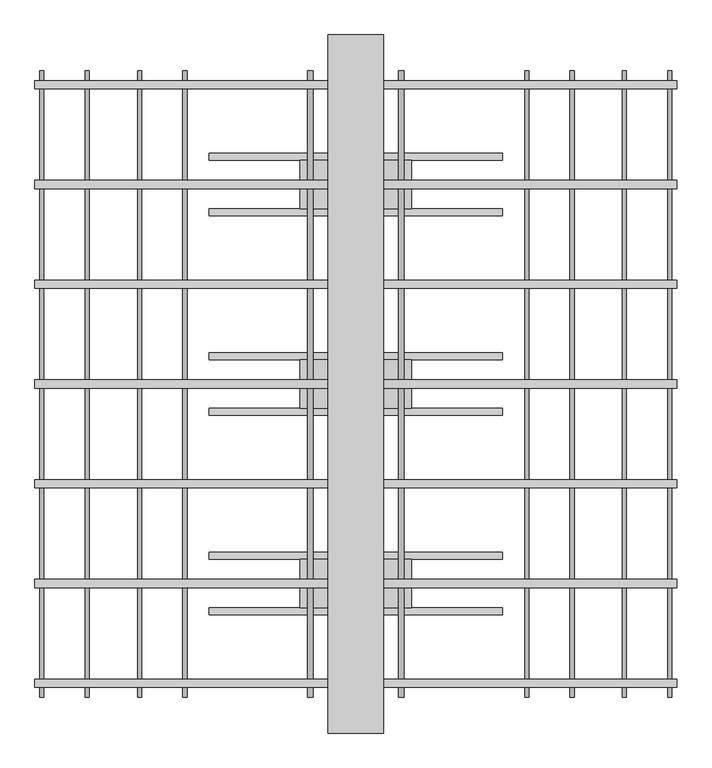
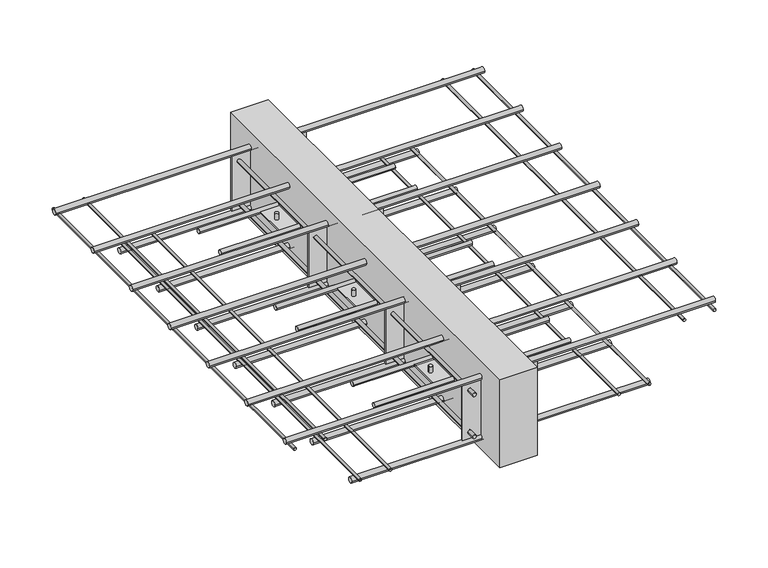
"""IFC4 building model written with IfcOpenShell, lengths in millimetres: fastener geometry, ACINOXplus_Typenreihe_K : KE+ S3."""

from ifc_helpers import new_model, si_unit, point, frame, frame_2d, origin, place, context, project, spatial, polyline, circle_curve, trimmed, segment, composite_curve, outline, extrude, source, transform, mapped, element, save
from ifc_brep_helpers import plane_surface, cylinder_surface, advanced_brep


def fastener_6e46608f(model_context):
    return source(origin(), model_context, "Body", "SolidModel", [
        extrude(outline(composite_curve([segment(trimmed(circle_curve(frame_2d((-40.0, -104.5)), 5.0), [point((-45.0, -104.5))], [point((-35.0, -104.5))], False, "CARTESIAN"), True, "CONTINUOUS"), segment(trimmed(circle_curve(frame_2d((-40.0, -104.5)), 5.0), [point((-35.0, -104.5))], [point((-45.0, -104.5))], False, "CARTESIAN"), True, "CONTINUOUS")], self_intersect=False)), frame((-210.0, 0.0, 0.0), z_axis=(1.0, 0.0, 0.0), x_axis=(0.0, 1.0, 0.0)), (0.0, 0.0, 1.0), 420.0),
        extrude(outline(composite_curve([segment(trimmed(circle_curve(frame_2d((40.0, -104.5)), 5.0), [point((35.0, -104.5))], [point((45.0, -104.5))], False, "CARTESIAN"), True, "CONTINUOUS"), segment(trimmed(circle_curve(frame_2d((40.0, -104.5)), 5.0), [point((45.0, -104.5))], [point((35.0, -104.5))], False, "CARTESIAN"), True, "CONTINUOUS")], self_intersect=False)), frame((-210.0, 0.0, 0.0), z_axis=(1.0, 0.0, 0.0), x_axis=(0.0, 1.0, 0.0)), (0.0, 0.0, 1.0), 420.0),
        advanced_brep(
        [(-69.0, 0.0, -89.5), (-61.0, 0.0, -89.5), (61.0, 0.0, -89.5), (69.0, 0.0, -89.5), (-69.0, 0.0, -119.5), (-61.0, 0.0, -119.5), (61.0, 0.0, -119.5), (69.0, 0.0, -119.5), (-69.0, 0.0, -103.0), (-61.0, 0.0, -103.0), (-61.0, 0.0, -106.0), (-69.0, 0.0, -106.0), (61.0, 0.0, -103.0), (69.0, 0.0, -103.0), (69.0, 0.0, -106.0), (61.0, 0.0, -106.0), (80.0, 35.0, -103.0), (-80.0, 35.0, -103.0), (-80.0, -35.0, -103.0), (80.0, -35.0, -103.0), (80.0, 35.0, -106.0), (80.0, -35.0, -106.0), (-80.0, -35.0, -106.0), (-80.0, 35.0, -106.0)],
        [
            (0, 1, circle_curve(frame((-65.0, 0.0, -89.5), z_axis=(0.0, 0.0, 1.0), x_axis=(1.0, 0.0, 0.0)), 4.0)),
            (1, 0, circle_curve(frame((-65.0, 0.0, -89.5), z_axis=(0.0, 0.0, 1.0), x_axis=(1.0, 0.0, 0.0)), 4.0)),
            (2, 3, circle_curve(frame((65.0, 0.0, -89.5), z_axis=(0.0, 0.0, 1.0), x_axis=(1.0, 0.0, 0.0)), 4.0)),
            (3, 2, circle_curve(frame((65.0, 0.0, -89.5), z_axis=(0.0, 0.0, 1.0), x_axis=(1.0, 0.0, 0.0)), 4.0)),
            (4, 5, circle_curve(frame((-65.0, 0.0, -119.5), z_axis=(0.0, 0.0, -1.0), x_axis=(1.0, 0.0, 0.0)), 4.0)),
            (5, 4, circle_curve(frame((-65.0, 0.0, -119.5), z_axis=(0.0, 0.0, -1.0), x_axis=(1.0, 0.0, 0.0)), 4.0)),
            (6, 7, circle_curve(frame((65.0, 0.0, -119.5), z_axis=(0.0, 0.0, -1.0), x_axis=(1.0, 0.0, 0.0)), 4.0)),
            (7, 6, circle_curve(frame((65.0, 0.0, -119.5), z_axis=(0.0, 0.0, -1.0), x_axis=(1.0, 0.0, 0.0)), 4.0)),
            (0, 8),
            (8, 9, circle_curve(frame((-65.0, 0.0, -103.0), z_axis=(0.0, 0.0, 1.0), x_axis=(1.0, 0.0, 0.0)), 4.0)),
            (9, 1),
            (5, 10),
            (10, 11, circle_curve(frame((-65.0, 0.0, -106.0), z_axis=(0.0, 0.0, -1.0), x_axis=(1.0, 0.0, 0.0)), 4.0)),
            (11, 4),
            (9, 8, circle_curve(frame((-65.0, 0.0, -103.0), z_axis=(0.0, 0.0, 1.0), x_axis=(1.0, 0.0, 0.0)), 4.0)),
            (11, 10, circle_curve(frame((-65.0, 0.0, -106.0), z_axis=(0.0, 0.0, -1.0), x_axis=(1.0, 0.0, 0.0)), 4.0)),
            (2, 12),
            (12, 13, circle_curve(frame((65.0, 0.0, -103.0), z_axis=(0.0, 0.0, 1.0), x_axis=(1.0, 0.0, 0.0)), 4.0)),
            (13, 3),
            (7, 14),
            (14, 15, circle_curve(frame((65.0, 0.0, -106.0), z_axis=(0.0, 0.0, -1.0), x_axis=(1.0, 0.0, 0.0)), 4.0)),
            (15, 6),
            (13, 12, circle_curve(frame((65.0, 0.0, -103.0), z_axis=(0.0, 0.0, 1.0), x_axis=(1.0, 0.0, 0.0)), 4.0)),
            (15, 14, circle_curve(frame((65.0, 0.0, -106.0), z_axis=(0.0, 0.0, -1.0), x_axis=(1.0, 0.0, 0.0)), 4.0)),
            (16, 17),
            (17, 18),
            (18, 19),
            (19, 16),
            (20, 21),
            (21, 22),
            (22, 23),
            (23, 20),
            (16, 20),
            (23, 17),
            (22, 18),
            (21, 19),
        ],
        [
            plane_surface(frame((-61.0, 0.0, -89.5), z_axis=(0.0, 0.0, 1.0), x_axis=(0.0, 1.0, 0.0))),
            plane_surface(frame((-61.0, 0.0, -119.5), z_axis=(0.0, 0.0, -1.0), x_axis=(0.0, -1.0, 0.0))),
            cylinder_surface(frame((-65.0, 0.0, -119.5), z_axis=(0.0, 0.0, 1.0), x_axis=(1.0, 0.0, 0.0)), 4.0),
            cylinder_surface(frame((65.0, 0.0, -104.5), z_axis=(0.0, 0.0, 1.0), x_axis=(1.0, 0.0, 0.0)), 4.0),
            plane_surface(frame((-80.0, 35.0, -103.0), z_axis=(0.0, 0.0, 1.0), x_axis=(-1.0, 0.0, 0.0))),
            plane_surface(frame((-80.0, 35.0, -106.0), z_axis=(0.0, 0.0, -1.0), x_axis=(1.0, 0.0, 0.0))),
            plane_surface(frame((80.0, 35.0, -103.0), z_axis=(0.0, 1.0, 0.0), x_axis=(0.0, 0.0, -1.0))),
            plane_surface(frame((-80.0, 35.0, -103.0), z_axis=(-1.0, 0.0, 0.0), x_axis=(0.0, 0.0, -1.0))),
            plane_surface(frame((-80.0, -35.0, -103.0), z_axis=(0.0, -1.0, 0.0), x_axis=(0.0, 0.0, -1.0))),
            plane_surface(frame((80.0, -35.0, -103.0), z_axis=(1.0, 0.0, 0.0), x_axis=(0.0, 0.0, -1.0))),
        ],
        [
            (0, [[1, 2]]),
            (0, [[3, 4]]),
            (1, [[5, 6]]),
            (1, [[7, 8]]),
            (2, [[-1, 9, 10, 11]]),
            (2, [[-6, 12, 13, 14]]),
            (2, [[-2, -11, 15, -9]]),
            (2, [[-5, -14, 16, -12]]),
            (3, [[-3, 17, 18, 19]]),
            (3, [[-8, 20, 21, 22]]),
            (3, [[-4, -19, 23, -17]]),
            (3, [[-7, -22, 24, -20]]),
            (4, [[25, 26, 27, 28], [-10, -15], [-18, -23]]),
            (5, [[29, 30, 31, 32], [-13, -16], [-21, -24]]),
            (6, [[-25, 33, -32, 34]]),
            (7, [[-26, -34, -31, 35]]),
            (8, [[-27, -35, -30, 36]]),
            (9, [[-28, -36, -29, -33]]),
        ],
    ),
        extrude(outline(composite_curve([segment(trimmed(circle_curve(frame_2d((-325.7142857, -104.5)), 5.0), [point((-330.7142857, -104.5))], [point((-320.7142857, -104.5))], False, "CARTESIAN"), True, "CONTINUOUS"), segment(trimmed(circle_curve(frame_2d((-325.7142857, -104.5)), 5.0), [point((-320.7142857, -104.5))], [point((-330.7142857, -104.5))], False, "CARTESIAN"), True, "CONTINUOUS")], self_intersect=False)), frame((-210.0, 0.0, 0.0), z_axis=(1.0, 0.0, 0.0), x_axis=(0.0, 1.0, 0.0)), (0.0, 0.0, 1.0), 420.0),
        extrude(outline(composite_curve([segment(trimmed(circle_curve(frame_2d((-245.7142857, -104.5)), 5.0), [point((-250.7142857, -104.5))], [point((-240.7142857, -104.5))], False, "CARTESIAN"), True, "CONTINUOUS"), segment(trimmed(circle_curve(frame_2d((-245.7142857, -104.5)), 5.0), [point((-240.7142857, -104.5))], [point((-250.7142857, -104.5))], False, "CARTESIAN"), True, "CONTINUOUS")], self_intersect=False)), frame((-210.0, 0.0, 0.0), z_axis=(1.0, 0.0, 0.0), x_axis=(0.0, 1.0, 0.0)), (0.0, 0.0, 1.0), 420.0),
        advanced_brep(
        [(-69.0, -285.7142857, -89.5), (-61.0, -285.7142857, -89.5), (61.0, -285.7142857, -89.5), (69.0, -285.7142857, -89.5), (-69.0, -285.7142857, -119.5), (-61.0, -285.7142857, -119.5), (61.0, -285.7142857, -119.5), (69.0, -285.7142857, -119.5), (-69.0, -285.7142857, -103.0), (-61.0, -285.7142857, -103.0), (-61.0, -285.7142857, -106.0), (-69.0, -285.7142857, -106.0), (61.0, -285.7142857, -103.0), (69.0, -285.7142857, -103.0), (69.0, -285.7142857, -106.0), (61.0, -285.7142857, -106.0), (80.0, -250.7142857, -103.0), (-80.0, -250.7142857, -103.0), (-80.0, -320.7142857, -103.0), (80.0, -320.7142857, -103.0), (80.0, -250.7142857, -106.0), (80.0, -320.7142857, -106.0), (-80.0, -320.7142857, -106.0), (-80.0, -250.7142857, -106.0)],
        [
            (0, 1, circle_curve(frame((-65.0, -285.7142857, -89.5), z_axis=(0.0, 0.0, 1.0), x_axis=(1.0, 0.0, 0.0)), 4.0)),
            (1, 0, circle_curve(frame((-65.0, -285.7142857, -89.5), z_axis=(0.0, 0.0, 1.0), x_axis=(1.0, 0.0, 0.0)), 4.0)),
            (2, 3, circle_curve(frame((65.0, -285.7142857, -89.5), z_axis=(0.0, 0.0, 1.0), x_axis=(1.0, 0.0, 0.0)), 4.0)),
            (3, 2, circle_curve(frame((65.0, -285.7142857, -89.5), z_axis=(0.0, 0.0, 1.0), x_axis=(1.0, 0.0, 0.0)), 4.0)),
            (4, 5, circle_curve(frame((-65.0, -285.7142857, -119.5), z_axis=(0.0, 0.0, -1.0), x_axis=(1.0, 0.0, 0.0)), 4.0)),
            (5, 4, circle_curve(frame((-65.0, -285.7142857, -119.5), z_axis=(0.0, 0.0, -1.0), x_axis=(1.0, 0.0, 0.0)), 4.0)),
            (6, 7, circle_curve(frame((65.0, -285.7142857, -119.5), z_axis=(0.0, 0.0, -1.0), x_axis=(1.0, 0.0, 0.0)), 4.0)),
            (7, 6, circle_curve(frame((65.0, -285.7142857, -119.5), z_axis=(0.0, 0.0, -1.0), x_axis=(1.0, 0.0, 0.0)), 4.0)),
            (0, 8),
            (8, 9, circle_curve(frame((-65.0, -285.7142857, -103.0), z_axis=(0.0, 0.0, 1.0), x_axis=(1.0, 0.0, 0.0)), 4.0)),
            (9, 1),
            (5, 10),
            (10, 11, circle_curve(frame((-65.0, -285.7142857, -106.0), z_axis=(0.0, 0.0, -1.0), x_axis=(1.0, 0.0, 0.0)), 4.0)),
            (11, 4),
            (9, 8, circle_curve(frame((-65.0, -285.7142857, -103.0), z_axis=(0.0, 0.0, 1.0), x_axis=(1.0, 0.0, 0.0)), 4.0)),
            (11, 10, circle_curve(frame((-65.0, -285.7142857, -106.0), z_axis=(0.0, 0.0, -1.0), x_axis=(1.0, 0.0, 0.0)), 4.0)),
            (2, 12),
            (12, 13, circle_curve(frame((65.0, -285.7142857, -103.0), z_axis=(0.0, 0.0, 1.0), x_axis=(1.0, 0.0, 0.0)), 4.0)),
            (13, 3),
            (7, 14),
            (14, 15, circle_curve(frame((65.0, -285.7142857, -106.0), z_axis=(0.0, 0.0, -1.0), x_axis=(1.0, 0.0, 0.0)), 4.0)),
            (15, 6),
            (13, 12, circle_curve(frame((65.0, -285.7142857, -103.0), z_axis=(0.0, 0.0, 1.0), x_axis=(1.0, 0.0, 0.0)), 4.0)),
            (15, 14, circle_curve(frame((65.0, -285.7142857, -106.0), z_axis=(0.0, 0.0, -1.0), x_axis=(1.0, 0.0, 0.0)), 4.0)),
            (16, 17),
            (17, 18),
            (18, 19),
            (19, 16),
            (20, 21),
            (21, 22),
            (22, 23),
            (23, 20),
            (16, 20),
            (23, 17),
            (22, 18),
            (21, 19),
        ],
        [
            plane_surface(frame((-61.0, -285.7142857, -89.5), z_axis=(0.0, 0.0, 1.0), x_axis=(0.0, 1.0, 0.0))),
            plane_surface(frame((-61.0, -285.7142857, -119.5), z_axis=(0.0, 0.0, -1.0), x_axis=(0.0, -1.0, 0.0))),
            cylinder_surface(frame((-65.0, -285.7142857, -119.5), z_axis=(0.0, 0.0, 1.0), x_axis=(1.0, 0.0, 0.0)), 4.0),
            cylinder_surface(frame((65.0, -285.7142857, -104.5), z_axis=(0.0, 0.0, 1.0), x_axis=(1.0, 0.0, 0.0)), 4.0),
            plane_surface(frame((-80.0, -250.7142857, -103.0), z_axis=(0.0, 0.0, 1.0), x_axis=(-1.0, 0.0, 0.0))),
            plane_surface(frame((-80.0, -250.7142857, -106.0), z_axis=(0.0, 0.0, -1.0), x_axis=(1.0, 0.0, 0.0))),
            plane_surface(frame((80.0, -250.7142857, -103.0), z_axis=(0.0, 1.0, 0.0), x_axis=(0.0, 0.0, -1.0))),
            plane_surface(frame((-80.0, -250.7142857, -103.0), z_axis=(-1.0, 0.0, 0.0), x_axis=(0.0, 0.0, -1.0))),
            plane_surface(frame((-80.0, -320.7142857, -103.0), z_axis=(0.0, -1.0, 0.0), x_axis=(0.0, 0.0, -1.0))),
            plane_surface(frame((80.0, -320.7142857, -103.0), z_axis=(1.0, 0.0, 0.0), x_axis=(0.0, 0.0, -1.0))),
        ],
        [
            (0, [[1, 2]]),
            (0, [[3, 4]]),
            (1, [[5, 6]]),
            (1, [[7, 8]]),
            (2, [[-1, 9, 10, 11]]),
            (2, [[-6, 12, 13, 14]]),
            (2, [[-2, -11, 15, -9]]),
            (2, [[-5, -14, 16, -12]]),
            (3, [[-3, 17, 18, 19]]),
            (3, [[-8, 20, 21, 22]]),
            (3, [[-4, -19, 23, -17]]),
            (3, [[-7, -22, 24, -20]]),
            (4, [[25, 26, 27, 28], [-10, -15], [-18, -23]]),
            (5, [[29, 30, 31, 32], [-13, -16], [-21, -24]]),
            (6, [[-25, 33, -32, 34]]),
            (7, [[-26, -34, -31, 35]]),
            (8, [[-27, -35, -30, 36]]),
            (9, [[-28, -36, -29, -33]]),
        ],
    ),
        extrude(outline(composite_curve([segment(trimmed(circle_curve(frame_2d((245.7142857, -104.5)), 5.0), [point((240.7142857, -104.5))], [point((250.7142857, -104.5))], False, "CARTESIAN"), True, "CONTINUOUS"), segment(trimmed(circle_curve(frame_2d((245.7142857, -104.5)), 5.0), [point((250.7142857, -104.5))], [point((240.7142857, -104.5))], False, "CARTESIAN"), True, "CONTINUOUS")], self_intersect=False)), frame((-210.0, 0.0, 0.0), z_axis=(1.0, 0.0, 0.0), x_axis=(0.0, 1.0, 0.0)), (0.0, 0.0, 1.0), 420.0),
        extrude(outline(composite_curve([segment(trimmed(circle_curve(frame_2d((325.7142857, -104.5)), 5.0), [point((320.7142857, -104.5))], [point((330.7142857, -104.5))], False, "CARTESIAN"), True, "CONTINUOUS"), segment(trimmed(circle_curve(frame_2d((325.7142857, -104.5)), 5.0), [point((330.7142857, -104.5))], [point((320.7142857, -104.5))], False, "CARTESIAN"), True, "CONTINUOUS")], self_intersect=False)), frame((-210.0, 0.0, 0.0), z_axis=(1.0, 0.0, 0.0), x_axis=(0.0, 1.0, 0.0)), (0.0, 0.0, 1.0), 420.0),
        advanced_brep(
        [(-69.0, 285.7142857, -89.5), (-61.0, 285.7142857, -89.5), (61.0, 285.7142857, -89.5), (69.0, 285.7142857, -89.5), (-69.0, 285.7142857, -119.5), (-61.0, 285.7142857, -119.5), (61.0, 285.7142857, -119.5), (69.0, 285.7142857, -119.5), (-69.0, 285.7142857, -103.0), (-61.0, 285.7142857, -103.0), (-61.0, 285.7142857, -106.0), (-69.0, 285.7142857, -106.0), (61.0, 285.7142857, -103.0), (69.0, 285.7142857, -103.0), (69.0, 285.7142857, -106.0), (61.0, 285.7142857, -106.0), (80.0, 320.7142857, -103.0), (-80.0, 320.7142857, -103.0), (-80.0, 250.7142857, -103.0), (80.0, 250.7142857, -103.0), (80.0, 320.7142857, -106.0), (80.0, 250.7142857, -106.0), (-80.0, 250.7142857, -106.0), (-80.0, 320.7142857, -106.0)],
        [
            (0, 1, circle_curve(frame((-65.0, 285.7142857, -89.5), z_axis=(0.0, 0.0, 1.0), x_axis=(1.0, 0.0, 0.0)), 4.0)),
            (1, 0, circle_curve(frame((-65.0, 285.7142857, -89.5), z_axis=(0.0, 0.0, 1.0), x_axis=(1.0, 0.0, 0.0)), 4.0)),
            (2, 3, circle_curve(frame((65.0, 285.7142857, -89.5), z_axis=(0.0, 0.0, 1.0), x_axis=(1.0, 0.0, 0.0)), 4.0)),
            (3, 2, circle_curve(frame((65.0, 285.7142857, -89.5), z_axis=(0.0, 0.0, 1.0), x_axis=(1.0, 0.0, 0.0)), 4.0)),
            (4, 5, circle_curve(frame((-65.0, 285.7142857, -119.5), z_axis=(0.0, 0.0, -1.0), x_axis=(1.0, 0.0, 0.0)), 4.0)),
            (5, 4, circle_curve(frame((-65.0, 285.7142857, -119.5), z_axis=(0.0, 0.0, -1.0), x_axis=(1.0, 0.0, 0.0)), 4.0)),
            (6, 7, circle_curve(frame((65.0, 285.7142857, -119.5), z_axis=(0.0, 0.0, -1.0), x_axis=(1.0, 0.0, 0.0)), 4.0)),
            (7, 6, circle_curve(frame((65.0, 285.7142857, -119.5), z_axis=(0.0, 0.0, -1.0), x_axis=(1.0, 0.0, 0.0)), 4.0)),
            (0, 8),
            (8, 9, circle_curve(frame((-65.0, 285.7142857, -103.0), z_axis=(0.0, 0.0, 1.0), x_axis=(1.0, 0.0, 0.0)), 4.0)),
            (9, 1),
            (5, 10),
            (10, 11, circle_curve(frame((-65.0, 285.7142857, -106.0), z_axis=(0.0, 0.0, -1.0), x_axis=(1.0, 0.0, 0.0)), 4.0)),
            (11, 4),
            (9, 8, circle_curve(frame((-65.0, 285.7142857, -103.0), z_axis=(0.0, 0.0, 1.0), x_axis=(1.0, 0.0, 0.0)), 4.0)),
            (11, 10, circle_curve(frame((-65.0, 285.7142857, -106.0), z_axis=(0.0, 0.0, -1.0), x_axis=(1.0, 0.0, 0.0)), 4.0)),
            (2, 12),
            (12, 13, circle_curve(frame((65.0, 285.7142857, -103.0), z_axis=(0.0, 0.0, 1.0), x_axis=(1.0, 0.0, 0.0)), 4.0)),
            (13, 3),
            (7, 14),
            (14, 15, circle_curve(frame((65.0, 285.7142857, -106.0), z_axis=(0.0, 0.0, -1.0), x_axis=(1.0, 0.0, 0.0)), 4.0)),
            (15, 6),
            (13, 12, circle_curve(frame((65.0, 285.7142857, -103.0), z_axis=(0.0, 0.0, 1.0), x_axis=(1.0, 0.0, 0.0)), 4.0)),
            (15, 14, circle_curve(frame((65.0, 285.7142857, -106.0), z_axis=(0.0, 0.0, -1.0), x_axis=(1.0, 0.0, 0.0)), 4.0)),
            (16, 17),
            (17, 18),
            (18, 19),
            (19, 16),
            (20, 21),
            (21, 22),
            (22, 23),
            (23, 20),
            (16, 20),
            (23, 17),
            (22, 18),
            (21, 19),
        ],
        [
            plane_surface(frame((-61.0, 285.7142857, -89.5), z_axis=(0.0, 0.0, 1.0), x_axis=(0.0, 1.0, 0.0))),
            plane_surface(frame((-61.0, 285.7142857, -119.5), z_axis=(0.0, 0.0, -1.0), x_axis=(0.0, -1.0, 0.0))),
            cylinder_surface(frame((-65.0, 285.7142857, -119.5), z_axis=(0.0, 0.0, 1.0), x_axis=(1.0, 0.0, 0.0)), 4.0),
            cylinder_surface(frame((65.0, 285.7142857, -104.5), z_axis=(0.0, 0.0, 1.0), x_axis=(1.0, 0.0, 0.0)), 4.0),
            plane_surface(frame((-80.0, 320.7142857, -103.0), z_axis=(0.0, 0.0, 1.0), x_axis=(-1.0, 0.0, 0.0))),
            plane_surface(frame((-80.0, 320.7142857, -106.0), z_axis=(0.0, 0.0, -1.0), x_axis=(1.0, 0.0, 0.0))),
            plane_surface(frame((80.0, 320.7142857, -103.0), z_axis=(0.0, 1.0, 0.0), x_axis=(0.0, 0.0, -1.0))),
            plane_surface(frame((-80.0, 320.7142857, -103.0), z_axis=(-1.0, 0.0, 0.0), x_axis=(0.0, 0.0, -1.0))),
            plane_surface(frame((-80.0, 250.7142857, -103.0), z_axis=(0.0, -1.0, 0.0), x_axis=(0.0, 0.0, -1.0))),
            plane_surface(frame((80.0, 250.7142857, -103.0), z_axis=(1.0, 0.0, 0.0), x_axis=(0.0, 0.0, -1.0))),
        ],
        [
            (0, [[1, 2]]),
            (0, [[3, 4]]),
            (1, [[5, 6]]),
            (1, [[7, 8]]),
            (2, [[-1, 9, 10, 11]]),
            (2, [[-6, 12, 13, 14]]),
            (2, [[-2, -11, 15, -9]]),
            (2, [[-5, -14, 16, -12]]),
            (3, [[-3, 17, 18, 19]]),
            (3, [[-8, 20, 21, 22]]),
            (3, [[-4, -19, 23, -17]]),
            (3, [[-7, -22, 24, -20]]),
            (4, [[25, 26, 27, 28], [-10, -15], [-18, -23]]),
            (5, [[29, 30, 31, 32], [-13, -16], [-21, -24]]),
            (6, [[-25, 33, -32, 34]]),
            (7, [[-26, -34, -31, 35]]),
            (8, [[-27, -35, -30, 36]]),
            (9, [[-28, -36, -29, -33]]),
        ],
    ),
        extrude(outline(polyline([(40.0, 500.0), (40.0, -500.0), (-40.0, -500.0), (-40.0, 500.0), (40.0, 500.0)])), frame((0.0, 0.0, -200.0), z_axis=(0.0, 0.0, 1.0), x_axis=(1.0, 0.0, 0.0)), (0.0, 0.0, 1.0), 200.0),
        extrude(outline(polyline([(80.0, -141.3571429), (80.0, -144.3571429), (-80.0, -144.3571429), (-80.0, -141.3571429), (80.0, -141.3571429)])), frame((0.0, 0.0, -167.0), z_axis=(0.0, 0.0, 1.0), x_axis=(1.0, 0.0, 0.0)), (0.0, 0.0, 1.0), 125.0),
        extrude(outline(polyline([(80.0, 144.3571429), (80.0, 141.3571429), (-80.0, 141.3571429), (-80.0, 144.3571429), (80.0, 144.3571429)])), frame((0.0, 0.0, -167.0), z_axis=(0.0, 0.0, 1.0), x_axis=(1.0, 0.0, 0.0)), (0.0, 0.0, 1.0), 125.0),
        extrude(outline(polyline([(80.0, -427.0714286), (80.0, -430.0714286), (-80.0, -430.0714286), (-80.0, -427.0714286), (80.0, -427.0714286)])), frame((0.0, 0.0, -167.0), z_axis=(0.0, 0.0, 1.0), x_axis=(1.0, 0.0, 0.0)), (0.0, 0.0, 1.0), 125.0),
        extrude(outline(polyline([(80.0, 430.0714286), (80.0, 427.0714286), (-80.0, 427.0714286), (-80.0, 430.0714286), (80.0, 430.0714286)])), frame((0.0, 0.0, -167.0), z_axis=(0.0, 0.0, 1.0), x_axis=(1.0, 0.0, 0.0)), (0.0, 0.0, 1.0), 125.0),
        extrude(outline(composite_curve([segment(trimmed(circle_curve(frame_2d((-152.0, -65.0)), 4.0), [point((-152.0, -61.0))], [point((-152.0, -69.0))], False, "CARTESIAN"), True, "CONTINUOUS"), segment(trimmed(circle_curve(frame_2d((-152.0, -65.0)), 4.0), [point((-152.0, -69.0))], [point((-152.0, -61.0))], False, "CARTESIAN"), True, "CONTINUOUS")], self_intersect=False)), frame((0.0, -448.5714286, 0.0), z_axis=(0.0, 1.0, 0.0), x_axis=(0.0, 0.0, 1.0)), (0.0, 0.0, 1.0), 18.5),
        extrude(outline(composite_curve([segment(trimmed(circle_curve(frame_2d((-152.0, -65.0)), 4.0), [point((-152.0, -69.0))], [point((-152.0, -61.0))], False, "CARTESIAN"), True, "CONTINUOUS"), segment(trimmed(circle_curve(frame_2d((-152.0, -65.0)), 4.0), [point((-152.0, -61.0))], [point((-152.0, -69.0))], False, "CARTESIAN"), True, "CONTINUOUS")], self_intersect=False)), frame((0.0, -427.0714286, 0.0), z_axis=(0.0, 1.0, 0.0), x_axis=(0.0, 0.0, 1.0)), (0.0, 0.0, 1.0), 568.4285714),
        extrude(outline(composite_curve([segment(trimmed(circle_curve(frame_2d((-152.0, -65.0)), 4.0), [point((-152.0, -69.0))], [point((-152.0, -61.0))], False, "CARTESIAN"), True, "CONTINUOUS"), segment(trimmed(circle_curve(frame_2d((-152.0, -65.0)), 4.0), [point((-152.0, -61.0))], [point((-152.0, -69.0))], False, "CARTESIAN"), True, "CONTINUOUS")], self_intersect=False)), frame((0.0, 430.0714286, 0.0), z_axis=(0.0, 1.0, 0.0), x_axis=(0.0, 0.0, 1.0)), (0.0, 0.0, 1.0), 18.5),
        extrude(outline(composite_curve([segment(trimmed(circle_curve(frame_2d((-152.0, -65.0)), 4.0), [point((-152.0, -69.0))], [point((-152.0, -61.0))], False, "CARTESIAN"), True, "CONTINUOUS"), segment(trimmed(circle_curve(frame_2d((-152.0, -65.0)), 4.0), [point((-152.0, -61.0))], [point((-152.0, -69.0))], False, "CARTESIAN"), True, "CONTINUOUS")], self_intersect=False)), frame((0.0, 144.3571429, 0.0), z_axis=(0.0, 1.0, 0.0), x_axis=(0.0, 0.0, 1.0)), (0.0, 0.0, 1.0), 282.7142857),
        extrude(outline(composite_curve([segment(trimmed(circle_curve(frame_2d((-152.0, 65.0)), 4.0), [point((-152.0, 69.0))], [point((-152.0, 61.0))], False, "CARTESIAN"), True, "CONTINUOUS"), segment(trimmed(circle_curve(frame_2d((-152.0, 65.0)), 4.0), [point((-152.0, 61.0))], [point((-152.0, 69.0))], False, "CARTESIAN"), True, "CONTINUOUS")], self_intersect=False)), frame((0.0, -448.5714286, 0.0), z_axis=(0.0, 1.0, 0.0), x_axis=(0.0, 0.0, 1.0)), (0.0, 0.0, 1.0), 18.5),
        extrude(outline(composite_curve([segment(trimmed(circle_curve(frame_2d((-152.0, 65.0)), 4.0), [point((-152.0, 61.0))], [point((-152.0, 69.0))], False, "CARTESIAN"), True, "CONTINUOUS"), segment(trimmed(circle_curve(frame_2d((-152.0, 65.0)), 4.0), [point((-152.0, 69.0))], [point((-152.0, 61.0))], False, "CARTESIAN"), True, "CONTINUOUS")], self_intersect=False)), frame((0.0, -427.0714286, 0.0), z_axis=(0.0, 1.0, 0.0), x_axis=(0.0, 0.0, 1.0)), (0.0, 0.0, 1.0), 568.4285714),
        extrude(outline(composite_curve([segment(trimmed(circle_curve(frame_2d((-152.0, 65.0)), 4.0), [point((-152.0, 61.0))], [point((-152.0, 69.0))], False, "CARTESIAN"), True, "CONTINUOUS"), segment(trimmed(circle_curve(frame_2d((-152.0, 65.0)), 4.0), [point((-152.0, 69.0))], [point((-152.0, 61.0))], False, "CARTESIAN"), True, "CONTINUOUS")], self_intersect=False)), frame((0.0, 430.0714286, 0.0), z_axis=(0.0, 1.0, 0.0), x_axis=(0.0, 0.0, 1.0)), (0.0, 0.0, 1.0), 18.5),
        extrude(outline(composite_curve([segment(trimmed(circle_curve(frame_2d((-152.0, 65.0)), 4.0), [point((-152.0, 61.0))], [point((-152.0, 69.0))], False, "CARTESIAN"), True, "CONTINUOUS"), segment(trimmed(circle_curve(frame_2d((-152.0, 65.0)), 4.0), [point((-152.0, 69.0))], [point((-152.0, 61.0))], False, "CARTESIAN"), True, "CONTINUOUS")], self_intersect=False)), frame((0.0, 144.3571429, 0.0), z_axis=(0.0, 1.0, 0.0), x_axis=(0.0, 0.0, 1.0)), (0.0, 0.0, 1.0), 282.7142857),
        extrude(outline(composite_curve([segment(trimmed(circle_curve(frame_2d((-57.0, -65.0)), 4.0), [point((-57.0, -61.0))], [point((-57.0, -69.0))], False, "CARTESIAN"), True, "CONTINUOUS"), segment(trimmed(circle_curve(frame_2d((-57.0, -65.0)), 4.0), [point((-57.0, -69.0))], [point((-57.0, -61.0))], False, "CARTESIAN"), True, "CONTINUOUS")], self_intersect=False)), frame((0.0, -448.5714286, 0.0), z_axis=(0.0, 1.0, 0.0), x_axis=(0.0, 0.0, 1.0)), (0.0, 0.0, 1.0), 18.5),
        extrude(outline(composite_curve([segment(trimmed(circle_curve(frame_2d((-57.0, -65.0)), 4.0), [point((-57.0, -69.0))], [point((-57.0, -61.0))], False, "CARTESIAN"), True, "CONTINUOUS"), segment(trimmed(circle_curve(frame_2d((-57.0, -65.0)), 4.0), [point((-57.0, -61.0))], [point((-57.0, -69.0))], False, "CARTESIAN"), True, "CONTINUOUS")], self_intersect=False)), frame((0.0, -427.0714286, 0.0), z_axis=(0.0, 1.0, 0.0), x_axis=(0.0, 0.0, 1.0)), (0.0, 0.0, 1.0), 568.4285714),
        extrude(outline(composite_curve([segment(trimmed(circle_curve(frame_2d((-57.0, -65.0)), 4.0), [point((-57.0, -69.0))], [point((-57.0, -61.0))], False, "CARTESIAN"), True, "CONTINUOUS"), segment(trimmed(circle_curve(frame_2d((-57.0, -65.0)), 4.0), [point((-57.0, -61.0))], [point((-57.0, -69.0))], False, "CARTESIAN"), True, "CONTINUOUS")], self_intersect=False)), frame((0.0, 430.0714286, 0.0), z_axis=(0.0, 1.0, 0.0), x_axis=(0.0, 0.0, 1.0)), (0.0, 0.0, 1.0), 18.5),
        extrude(outline(composite_curve([segment(trimmed(circle_curve(frame_2d((-57.0, -65.0)), 4.0), [point((-57.0, -69.0))], [point((-57.0, -61.0))], False, "CARTESIAN"), True, "CONTINUOUS"), segment(trimmed(circle_curve(frame_2d((-57.0, -65.0)), 4.0), [point((-57.0, -61.0))], [point((-57.0, -69.0))], False, "CARTESIAN"), True, "CONTINUOUS")], self_intersect=False)), frame((0.0, 144.3571429, 0.0), z_axis=(0.0, 1.0, 0.0), x_axis=(0.0, 0.0, 1.0)), (0.0, 0.0, 1.0), 282.7142857),
        extrude(outline(composite_curve([segment(trimmed(circle_curve(frame_2d((-57.0, 65.0)), 4.0), [point((-57.0, 69.0))], [point((-57.0, 61.0))], False, "CARTESIAN"), True, "CONTINUOUS"), segment(trimmed(circle_curve(frame_2d((-57.0, 65.0)), 4.0), [point((-57.0, 61.0))], [point((-57.0, 69.0))], False, "CARTESIAN"), True, "CONTINUOUS")], self_intersect=False)), frame((0.0, -448.5714286, 0.0), z_axis=(0.0, 1.0, 0.0), x_axis=(0.0, 0.0, 1.0)), (0.0, 0.0, 1.0), 18.5),
        extrude(outline(composite_curve([segment(trimmed(circle_curve(frame_2d((-57.0, 65.0)), 4.0), [point((-57.0, 61.0))], [point((-57.0, 69.0))], False, "CARTESIAN"), True, "CONTINUOUS"), segment(trimmed(circle_curve(frame_2d((-57.0, 65.0)), 4.0), [point((-57.0, 69.0))], [point((-57.0, 61.0))], False, "CARTESIAN"), True, "CONTINUOUS")], self_intersect=False)), frame((0.0, -427.0714286, 0.0), z_axis=(0.0, 1.0, 0.0), x_axis=(0.0, 0.0, 1.0)), (0.0, 0.0, 1.0), 568.4285714),
        extrude(outline(composite_curve([segment(trimmed(circle_curve(frame_2d((-57.0, 65.0)), 4.0), [point((-57.0, 61.0))], [point((-57.0, 69.0))], False, "CARTESIAN"), True, "CONTINUOUS"), segment(trimmed(circle_curve(frame_2d((-57.0, 65.0)), 4.0), [point((-57.0, 69.0))], [point((-57.0, 61.0))], False, "CARTESIAN"), True, "CONTINUOUS")], self_intersect=False)), frame((0.0, 430.0714286, 0.0), z_axis=(0.0, 1.0, 0.0), x_axis=(0.0, 0.0, 1.0)), (0.0, 0.0, 1.0), 18.5),
        extrude(outline(composite_curve([segment(trimmed(circle_curve(frame_2d((-57.0, 65.0)), 4.0), [point((-57.0, 61.0))], [point((-57.0, 69.0))], False, "CARTESIAN"), True, "CONTINUOUS"), segment(trimmed(circle_curve(frame_2d((-57.0, 65.0)), 4.0), [point((-57.0, 69.0))], [point((-57.0, 61.0))], False, "CARTESIAN"), True, "CONTINUOUS")], self_intersect=False)), frame((0.0, 144.3571429, 0.0), z_axis=(0.0, 1.0, 0.0), x_axis=(0.0, 0.0, 1.0)), (0.0, 0.0, 1.0), 282.7142857),
        extrude(outline(composite_curve([segment(trimmed(circle_curve(frame_2d((142.8571429, -173.0)), 6.0), [point((136.8571429, -173.0))], [point((148.8571429, -173.0))], False, "CARTESIAN"), True, "CONTINUOUS"), segment(trimmed(circle_curve(frame_2d((142.8571429, -173.0)), 6.0), [point((148.8571429, -173.0))], [point((136.8571429, -173.0))], False, "CARTESIAN"), True, "CONTINUOUS")], self_intersect=False)), frame((-320.0, 0.0, 0.0), z_axis=(1.0, 0.0, 0.0), x_axis=(0.0, 1.0, 0.0)), (0.0, 0.0, 1.0), 640.0),
        extrude(outline(composite_curve([segment(trimmed(circle_curve(frame_2d((0.0, -173.0)), 6.0), [point((-6.0, -173.0))], [point((6.0, -173.0))], False, "CARTESIAN"), True, "CONTINUOUS"), segment(trimmed(circle_curve(frame_2d((0.0, -173.0)), 6.0), [point((6.0, -173.0))], [point((-6.0, -173.0))], False, "CARTESIAN"), True, "CONTINUOUS")], self_intersect=False)), frame((-320.0, 0.0, 0.0), z_axis=(1.0, 0.0, 0.0), x_axis=(0.0, 1.0, 0.0)), (0.0, 0.0, 1.0), 640.0),
        extrude(outline(composite_curve([segment(trimmed(circle_curve(frame_2d((-142.8571429, -173.0)), 6.0), [point((-148.8571429, -173.0))], [point((-136.8571429, -173.0))], False, "CARTESIAN"), True, "CONTINUOUS"), segment(trimmed(circle_curve(frame_2d((-142.8571429, -173.0)), 6.0), [point((-136.8571429, -173.0))], [point((-148.8571429, -173.0))], False, "CARTESIAN"), True, "CONTINUOUS")], self_intersect=False)), frame((-320.0, 0.0, 0.0), z_axis=(1.0, 0.0, 0.0), x_axis=(0.0, 1.0, 0.0)), (0.0, 0.0, 1.0), 640.0),
        extrude(outline(composite_curve([segment(trimmed(circle_curve(frame_2d((285.7142857, -173.0)), 6.0), [point((279.7142857, -173.0))], [point((291.7142857, -173.0))], False, "CARTESIAN"), True, "CONTINUOUS"), segment(trimmed(circle_curve(frame_2d((285.7142857, -173.0)), 6.0), [point((291.7142857, -173.0))], [point((279.7142857, -173.0))], False, "CARTESIAN"), True, "CONTINUOUS")], self_intersect=False)), frame((-320.0, 0.0, 0.0), z_axis=(1.0, 0.0, 0.0), x_axis=(0.0, 1.0, 0.0)), (0.0, 0.0, 1.0), 640.0),
        extrude(outline(composite_curve([segment(trimmed(circle_curve(frame_2d((428.5714286, -173.0)), 6.0), [point((422.5714286, -173.0))], [point((434.5714286, -173.0))], False, "CARTESIAN"), True, "CONTINUOUS"), segment(trimmed(circle_curve(frame_2d((428.5714286, -173.0)), 6.0), [point((434.5714286, -173.0))], [point((422.5714286, -173.0))], False, "CARTESIAN"), True, "CONTINUOUS")], self_intersect=False)), frame((-320.0, 0.0, 0.0), z_axis=(1.0, 0.0, 0.0), x_axis=(0.0, 1.0, 0.0)), (0.0, 0.0, 1.0), 640.0),
        extrude(outline(composite_curve([segment(trimmed(circle_curve(frame_2d((-285.7142857, -173.0)), 6.0), [point((-291.7142857, -173.0))], [point((-279.7142857, -173.0))], False, "CARTESIAN"), True, "CONTINUOUS"), segment(trimmed(circle_curve(frame_2d((-285.7142857, -173.0)), 6.0), [point((-279.7142857, -173.0))], [point((-291.7142857, -173.0))], False, "CARTESIAN"), True, "CONTINUOUS")], self_intersect=False)), frame((-320.0, 0.0, 0.0), z_axis=(1.0, 0.0, 0.0), x_axis=(0.0, 1.0, 0.0)), (0.0, 0.0, 1.0), 640.0),
        extrude(outline(composite_curve([segment(trimmed(circle_curve(frame_2d((-428.5714286, -173.0)), 6.0), [point((-434.5714286, -173.0))], [point((-422.5714286, -173.0))], False, "CARTESIAN"), True, "CONTINUOUS"), segment(trimmed(circle_curve(frame_2d((-428.5714286, -173.0)), 6.0), [point((-422.5714286, -173.0))], [point((-434.5714286, -173.0))], False, "CARTESIAN"), True, "CONTINUOUS")], self_intersect=False)), frame((-320.0, 0.0, 0.0), z_axis=(1.0, 0.0, 0.0), x_axis=(0.0, 1.0, 0.0)), (0.0, 0.0, 1.0), 640.0),
        extrude(outline(composite_curve([segment(trimmed(circle_curve(frame_2d((142.8571429, -36.0)), 6.0), [point((136.8571429, -36.0))], [point((148.8571429, -36.0))], False, "CARTESIAN"), True, "CONTINUOUS"), segment(trimmed(circle_curve(frame_2d((142.8571429, -36.0)), 6.0), [point((148.8571429, -36.0))], [point((136.8571429, -36.0))], False, "CARTESIAN"), True, "CONTINUOUS")], self_intersect=False)), frame((-460.0, 0.0, 0.0), z_axis=(1.0, 0.0, 0.0), x_axis=(0.0, 1.0, 0.0)), (0.0, 0.0, 1.0), 920.0),
        extrude(outline(composite_curve([segment(trimmed(circle_curve(frame_2d((0.0, -36.0)), 6.0), [point((-6.0, -36.0))], [point((6.0, -36.0))], False, "CARTESIAN"), True, "CONTINUOUS"), segment(trimmed(circle_curve(frame_2d((0.0, -36.0)), 6.0), [point((6.0, -36.0))], [point((-6.0, -36.0))], False, "CARTESIAN"), True, "CONTINUOUS")], self_intersect=False)), frame((-460.0, 0.0, 0.0), z_axis=(1.0, 0.0, 0.0), x_axis=(0.0, 1.0, 0.0)), (0.0, 0.0, 1.0), 920.0),
        extrude(outline(composite_curve([segment(trimmed(circle_curve(frame_2d((-142.8571429, -36.0)), 6.0), [point((-148.8571429, -36.0))], [point((-136.8571429, -36.0))], False, "CARTESIAN"), True, "CONTINUOUS"), segment(trimmed(circle_curve(frame_2d((-142.8571429, -36.0)), 6.0), [point((-136.8571429, -36.0))], [point((-148.8571429, -36.0))], False, "CARTESIAN"), True, "CONTINUOUS")], self_intersect=False)), frame((-460.0, 0.0, 0.0), z_axis=(1.0, 0.0, 0.0), x_axis=(0.0, 1.0, 0.0)), (0.0, 0.0, 1.0), 920.0),
        extrude(outline(composite_curve([segment(trimmed(circle_curve(frame_2d((285.7142857, -36.0)), 6.0), [point((279.7142857, -36.0))], [point((291.7142857, -36.0))], False, "CARTESIAN"), True, "CONTINUOUS"), segment(trimmed(circle_curve(frame_2d((285.7142857, -36.0)), 6.0), [point((291.7142857, -36.0))], [point((279.7142857, -36.0))], False, "CARTESIAN"), True, "CONTINUOUS")], self_intersect=False)), frame((-460.0, 0.0, 0.0), z_axis=(1.0, 0.0, 0.0), x_axis=(0.0, 1.0, 0.0)), (0.0, 0.0, 1.0), 920.0),
        extrude(outline(composite_curve([segment(trimmed(circle_curve(frame_2d((428.5714286, -36.0)), 6.0), [point((422.5714286, -36.0))], [point((434.5714286, -36.0))], False, "CARTESIAN"), True, "CONTINUOUS"), segment(trimmed(circle_curve(frame_2d((428.5714286, -36.0)), 6.0), [point((434.5714286, -36.0))], [point((422.5714286, -36.0))], False, "CARTESIAN"), True, "CONTINUOUS")], self_intersect=False)), frame((-460.0, 0.0, 0.0), z_axis=(1.0, 0.0, 0.0), x_axis=(0.0, 1.0, 0.0)), (0.0, 0.0, 1.0), 920.0),
        extrude(outline(composite_curve([segment(trimmed(circle_curve(frame_2d((-285.7142857, -36.0)), 6.0), [point((-291.7142857, -36.0))], [point((-279.7142857, -36.0))], False, "CARTESIAN"), True, "CONTINUOUS"), segment(trimmed(circle_curve(frame_2d((-285.7142857, -36.0)), 6.0), [point((-279.7142857, -36.0))], [point((-291.7142857, -36.0))], False, "CARTESIAN"), True, "CONTINUOUS")], self_intersect=False)), frame((-460.0, 0.0, 0.0), z_axis=(1.0, 0.0, 0.0), x_axis=(0.0, 1.0, 0.0)), (0.0, 0.0, 1.0), 920.0),
        extrude(outline(composite_curve([segment(trimmed(circle_curve(frame_2d((-428.5714286, -36.0)), 6.0), [point((-434.5714286, -36.0))], [point((-422.5714286, -36.0))], False, "CARTESIAN"), True, "CONTINUOUS"), segment(trimmed(circle_curve(frame_2d((-428.5714286, -36.0)), 6.0), [point((-422.5714286, -36.0))], [point((-434.5714286, -36.0))], False, "CARTESIAN"), True, "CONTINUOUS")], self_intersect=False)), frame((-460.0, 0.0, 0.0), z_axis=(1.0, 0.0, 0.0), x_axis=(0.0, 1.0, 0.0)), (0.0, 0.0, 1.0), 920.0),
        extrude(outline(composite_curve([segment(trimmed(circle_curve(frame_2d((-164.0, -310.0)), 3.0), [point((-164.0, -307.0))], [point((-164.0, -313.0))], False, "CARTESIAN"), True, "CONTINUOUS"), segment(trimmed(circle_curve(frame_2d((-164.0, -310.0)), 3.0), [point((-164.0, -313.0))], [point((-164.0, -307.0))], False, "CARTESIAN"), True, "CONTINUOUS")], self_intersect=False)), frame((0.0, -448.5714286, 0.0), z_axis=(0.0, 1.0, 0.0), x_axis=(0.0, 0.0, 1.0)), (0.0, 0.0, 1.0), 897.1428571),
        extrude(outline(composite_curve([segment(trimmed(circle_curve(frame_2d((-164.0, -245.0)), 3.0), [point((-164.0, -242.0))], [point((-164.0, -248.0))], False, "CARTESIAN"), True, "CONTINUOUS"), segment(trimmed(circle_curve(frame_2d((-164.0, -245.0)), 3.0), [point((-164.0, -248.0))], [point((-164.0, -242.0))], False, "CARTESIAN"), True, "CONTINUOUS")], self_intersect=False)), frame((0.0, -448.5714286, 0.0), z_axis=(0.0, 1.0, 0.0), x_axis=(0.0, 0.0, 1.0)), (0.0, 0.0, 1.0), 897.1428571),
        extrude(outline(composite_curve([segment(trimmed(circle_curve(frame_2d((-164.0, 245.0)), 3.0), [point((-164.0, 248.0))], [point((-164.0, 242.0))], False, "CARTESIAN"), True, "CONTINUOUS"), segment(trimmed(circle_curve(frame_2d((-164.0, 245.0)), 3.0), [point((-164.0, 242.0))], [point((-164.0, 248.0))], False, "CARTESIAN"), True, "CONTINUOUS")], self_intersect=False)), frame((0.0, -448.5714286, 0.0), z_axis=(0.0, 1.0, 0.0), x_axis=(0.0, 0.0, 1.0)), (0.0, 0.0, 1.0), 897.1428571),
        extrude(outline(composite_curve([segment(trimmed(circle_curve(frame_2d((-164.0, 310.0)), 3.0), [point((-164.0, 313.0))], [point((-164.0, 307.0))], False, "CARTESIAN"), True, "CONTINUOUS"), segment(trimmed(circle_curve(frame_2d((-164.0, 310.0)), 3.0), [point((-164.0, 307.0))], [point((-164.0, 313.0))], False, "CARTESIAN"), True, "CONTINUOUS")], self_intersect=False)), frame((0.0, -448.5714286, 0.0), z_axis=(0.0, 1.0, 0.0), x_axis=(0.0, 0.0, 1.0)), (0.0, 0.0, 1.0), 897.1428571),
        extrude(outline(composite_curve([segment(trimmed(circle_curve(frame_2d((-45.0, 385.0)), 3.0), [point((-45.0, 388.0))], [point((-45.0, 382.0))], False, "CARTESIAN"), True, "CONTINUOUS"), segment(trimmed(circle_curve(frame_2d((-45.0, 385.0)), 3.0), [point((-45.0, 382.0))], [point((-45.0, 388.0))], False, "CARTESIAN"), True, "CONTINUOUS")], self_intersect=False)), frame((0.0, -448.5714286, 0.0), z_axis=(0.0, 1.0, 0.0), x_axis=(0.0, 0.0, 1.0)), (0.0, 0.0, 1.0), 897.1428571),
        extrude(outline(composite_curve([segment(trimmed(circle_curve(frame_2d((-45.0, 450.0)), 3.0), [point((-45.0, 453.0))], [point((-45.0, 447.0))], False, "CARTESIAN"), True, "CONTINUOUS"), segment(trimmed(circle_curve(frame_2d((-45.0, 450.0)), 3.0), [point((-45.0, 447.0))], [point((-45.0, 453.0))], False, "CARTESIAN"), True, "CONTINUOUS")], self_intersect=False)), frame((0.0, -448.5714286, 0.0), z_axis=(0.0, 1.0, 0.0), x_axis=(0.0, 0.0, 1.0)), (0.0, 0.0, 1.0), 897.1428571),
        extrude(outline(composite_curve([segment(trimmed(circle_curve(frame_2d((-45.0, -450.0)), 3.0), [point((-45.0, -447.0))], [point((-45.0, -453.0))], False, "CARTESIAN"), True, "CONTINUOUS"), segment(trimmed(circle_curve(frame_2d((-45.0, -450.0)), 3.0), [point((-45.0, -453.0))], [point((-45.0, -447.0))], False, "CARTESIAN"), True, "CONTINUOUS")], self_intersect=False)), frame((0.0, -448.5714286, 0.0), z_axis=(0.0, 1.0, 0.0), x_axis=(0.0, 0.0, 1.0)), (0.0, 0.0, 1.0), 897.1428571),
        extrude(outline(composite_curve([segment(trimmed(circle_curve(frame_2d((-45.0, -385.0)), 3.0), [point((-45.0, -382.0))], [point((-45.0, -388.0))], False, "CARTESIAN"), True, "CONTINUOUS"), segment(trimmed(circle_curve(frame_2d((-45.0, -385.0)), 3.0), [point((-45.0, -388.0))], [point((-45.0, -382.0))], False, "CARTESIAN"), True, "CONTINUOUS")], self_intersect=False)), frame((0.0, -448.5714286, 0.0), z_axis=(0.0, 1.0, 0.0), x_axis=(0.0, 0.0, 1.0)), (0.0, 0.0, 1.0), 897.1428571),
    ])


if __name__ == "__main__":
    model = new_model("IFC4")
    model_context = context("Model", 3, world=origin())
    ifc_project = project(units=[si_unit("LENGTHUNIT", "METRE", prefix="MILLI")], contexts=[model_context])
    site = spatial("IfcSite", under=ifc_project)
    building = spatial("IfcBuilding", under=site)
    placement = place(None, origin())
    fastener_shape = fastener_6e46608f(model_context)
    element("IfcFastener", 1, ObjectType="ACINOXplus_Typenreihe_K : KE+ S3", at=placement, inside=building, context=model_context, shape_type="MappedRepresentation", body=[
        mapped(fastener_shape, transform((0.0, 0.0, 0.0), x_axis=(1.0, 0.0, 0.0), y_axis=(0.0, 1.0, 0.0), z_axis=(0.0, 0.0, 1.0))),
    ])
    save(model, "model.ifc")
